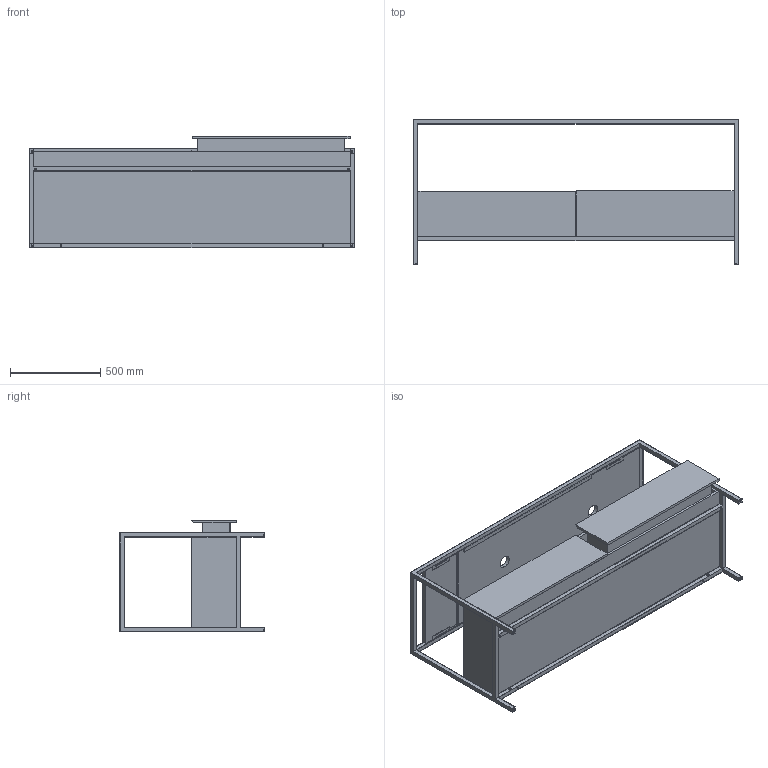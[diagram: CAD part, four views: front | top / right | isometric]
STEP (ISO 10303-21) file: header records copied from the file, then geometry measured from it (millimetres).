
FILE_DESCRIPTION (( 'STEP AP203' ), '1' );
FILE_NAME ('STA 180 03.STEP', '2019-02-04T14:22:09', ( '' ), ( '' ), 'SwSTEP 2.0', 'SolidWorks 2019', '' );
FILE_SCHEMA (( 'CONFIG_CONTROL_DESIGN' ));
Length unit declared in the file: millimetre
Products named in the file (7): struttura STAND180; PIANETTO; CASSETTO 87,5; STA 180 03; Ass CASSETTONE 180; SCOCCA STAND 180; PIANO MISURA 142 2f
Assembly tree (7 placements, depth 3):
  STA 180 03
    struttura STAND180
    PIANO MISURA 142 2f
    PIANETTO
    Ass CASSETTONE 180
      SCOCCA STAND 180
      CASSETTO 87,5  x2
Bounding box: 1800 x 800 x 619.96 mm (x, y, z)
Volume: 70348302.2 mm3; surface area: 13201175.6 mm2
Topology: 6 solids, 6 shells, 239 faces, 632 edges, 400 vertices
Faces by surface type: plane 175, cylinder 56, torus 8
Entity records: 7749 total; most frequent: CARTESIAN_POINT 1207, ORIENTED_EDGE 1192, DIRECTION 1186, EDGE_CURVE 596, LINE 476, VECTOR 476, VERTEX_POINT 376, AXIS2_PLACEMENT_3D 355
